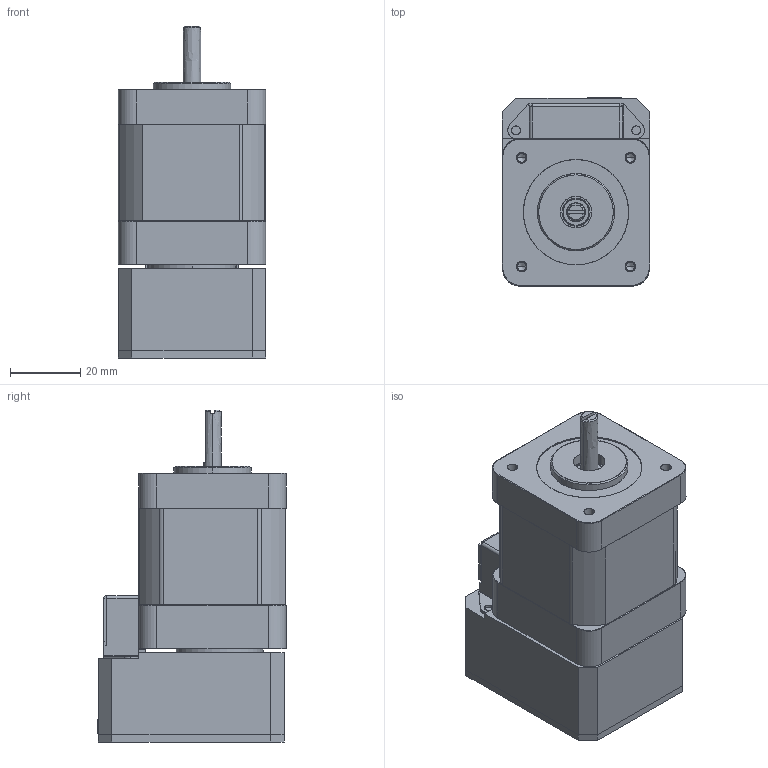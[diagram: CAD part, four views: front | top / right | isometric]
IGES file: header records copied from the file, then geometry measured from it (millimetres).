
Start section: SolidWorks IGES file using analytic representation for surfaces
Global section: file name: C:\Users\render\Desktop\Uli\CM1-X-17L30.IGS; native system: SolidWorks 2009; preprocessor: SolidWorks 2009; author: render; date: 100105.123222; units: millimetre
Bounding box: 42.03 x 53.75 x 94.71 mm (x, y, z)
Surface area: 42969 mm2 (no closed solid volume)
Topology: 0 solids, 0 shells, 787 faces, 7128 edges, 7120 vertices
Faces by surface type: bspline 581, revolution 206
